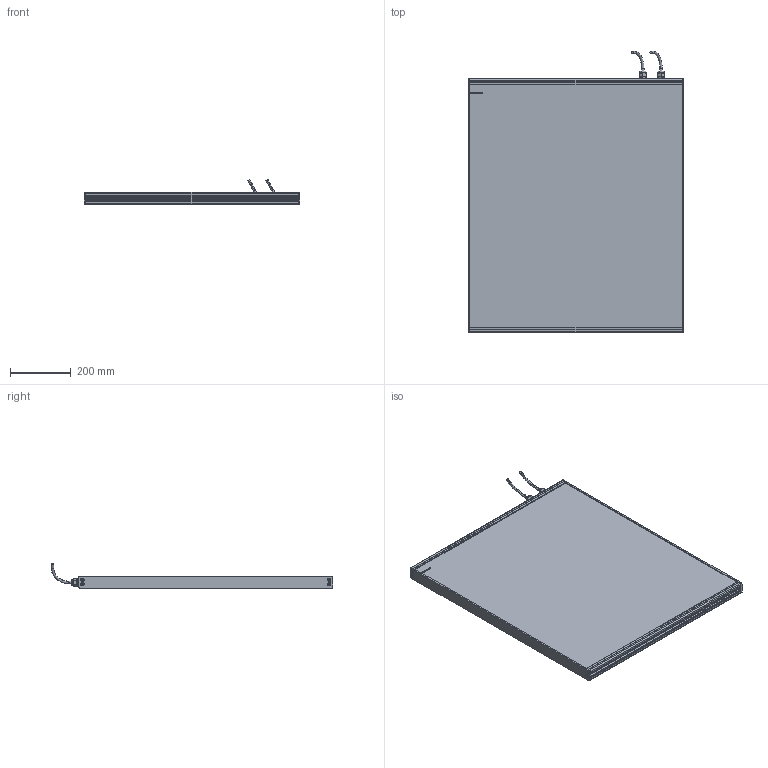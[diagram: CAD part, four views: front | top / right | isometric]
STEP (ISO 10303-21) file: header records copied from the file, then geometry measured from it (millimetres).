
FILE_DESCRIPTION (( 'STEP AP214' ), '1' );
FILE_NAME ('EFFI-BL-700T-800-2M12P.STEP', '2021-07-02T08:12:17', ( '' ), ( '' ), 'SwSTEP 2.0', 'SolidWorks 2021', '' );
FILE_SCHEMA (( 'AUTOMOTIVE_DESIGN' ));
Length unit declared in the file: millimetre
Products named in the file (7): M12 power; 003776; EFFI-BL-700T-800-2M12P; Pièce2^EFFI-BL-XXXT-YYY + 2 M12P; profile modif_lg 99.5 mm; bord fin modif_lg 436.5 mm
Assembly tree (15 placements, depth 2):
  EFFI-BL-700T-800-2M12P
    profile modif_lg 99.5 mm
    bord fin modif_lg 436.5 mm  x2
    Pièce2^EFFI-BL-XXXT-YYY + 2 M12P
    profile modif_lg 99.5 mm
    M12 power  x2
    003776  x8
Bounding box: 710 x 926.45 x 81.88 mm (x, y, z)
Volume: 20500389.3 mm3; surface area: 1591849.6 mm2
Topology: 13 solids, 19 shells, 627 faces, 1592 edges, 1022 vertices
Faces by surface type: plane 360, bspline 125, cylinder 114, cone 20, torus 8
Entity records: 16012 total; most frequent: CARTESIAN_POINT 5284, ORIENTED_EDGE 2148, DIRECTION 1816, EDGE_CURVE 1076, LINE 782, VECTOR 782, VERTEX_POINT 711, AXIS2_PLACEMENT_3D 517
